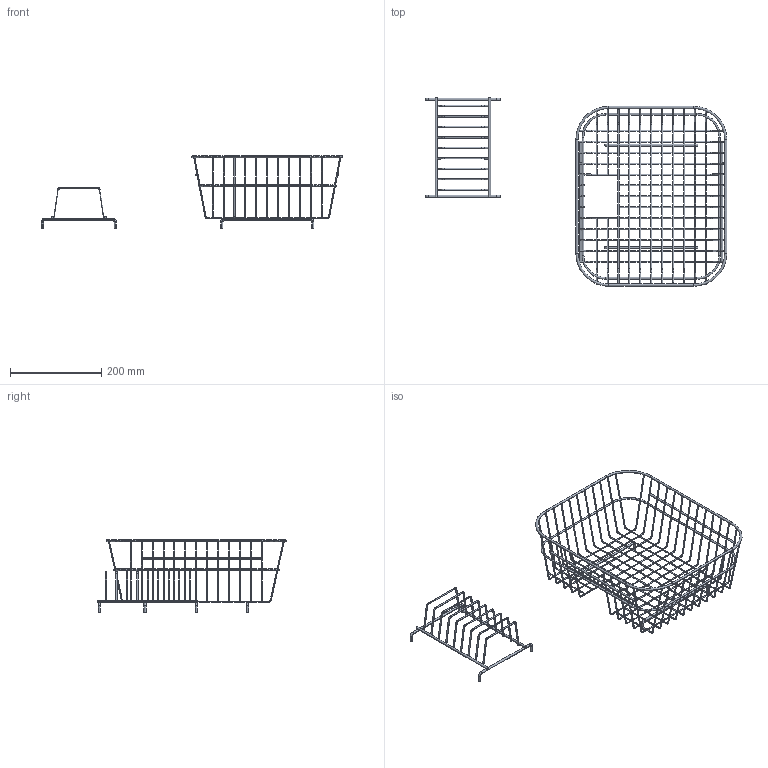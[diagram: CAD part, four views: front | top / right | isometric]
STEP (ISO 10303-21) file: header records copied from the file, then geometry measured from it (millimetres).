
FILE_DESCRIPTION(('CATIA V5 STEP Exchange'),'2;1');
FILE_NAME('C:\Users\linop\Desktop\DB34.stp','2020-10-06T13:51:41+00:00',('none'),('none'),'CATIA Version 5-6 Release 2014','CATIA V5 STEP AP203','none');
FILE_SCHEMA(('CONFIG_CONTROL_DESIGN'));
Length unit declared in the file: millimetre
Products named in the file (1): 1410175
Bounding box: 662.19 x 414 x 160.15 mm (x, y, z)
Volume: 140291.6 mm3; surface area: 172165.7 mm2
Topology: 16 solids, 16 shells, 856 faces, 2924 edges, 1668 vertices
Faces by surface type: cylinder 602, torus 158, plane 96
Entity records: 35830 total; most frequent: CARTESIAN_POINT 15366, ORIENTED_EDGE 5848, EDGE_CURVE 2924, DIRECTION 2215, VERTEX_POINT 1668, B_SPLINE_CURVE_WITH_KNOTS 1153, VECTOR 1069, LINE 1069
